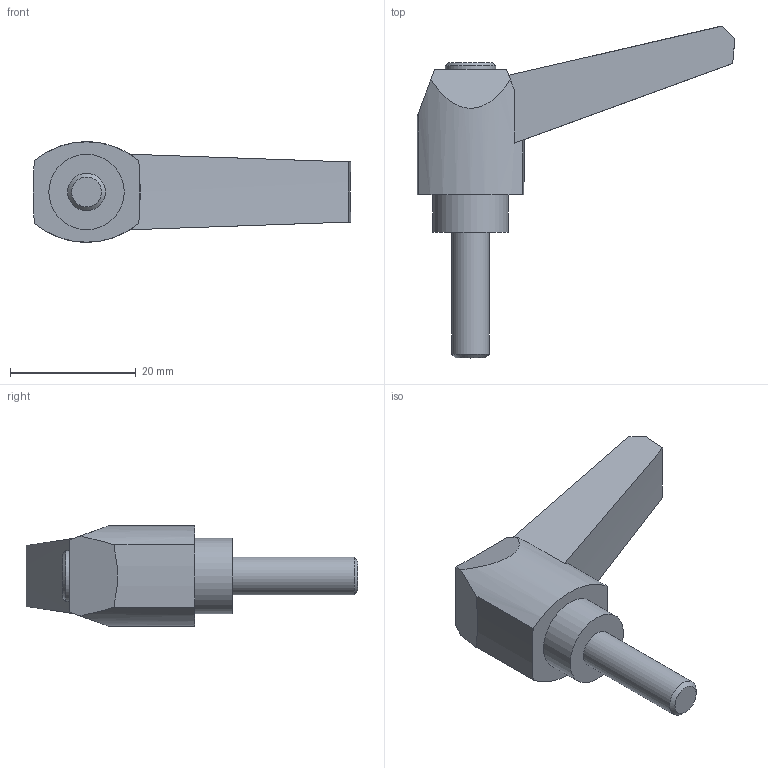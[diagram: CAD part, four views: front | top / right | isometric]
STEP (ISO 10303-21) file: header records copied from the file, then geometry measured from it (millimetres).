
FILE_DESCRIPTION( ( 'STEP AP203' ), '1' );
FILE_NAME( 'C:/Temp/Ganter_Step_05_03_2020/data/2_1/gn_500/gn_500_ms/Adjustable hand lever GN 500-42-M6-20-SW.stp', '2020-03-05T11:26:31', ( 'License CC BY-ND 4.0' ), ( 'CADENAS' ), ' ', 'PARTsolutions', ' ' );
FILE_SCHEMA( ( 'CONFIG_CONTROL_DESIGN' ) );
Length unit declared in the file: millimetre
Products named in the file (1): _Adjustable hand lever GN 500-42-M6-20-SW
Bounding box: 50.59 x 52.85 x 16 mm (x, y, z)
Volume: 8880 mm3; surface area: 3389.6 mm2
Topology: 1 solids, 1 shells, 24 faces, 56 edges, 37 vertices
Faces by surface type: plane 11, cylinder 7, cone 6
Full cylindrical faces by diameter (mm): 6 x1, 8 x1, 12 x1
Entity records: 708 total; most frequent: CARTESIAN_POINT 123, DIRECTION 118, ORIENTED_EDGE 100, EDGE_CURVE 50, AXIS2_PLACEMENT_3D 47, VERTEX_POINT 36, EDGE_LOOP 32, FACE_OUTER_BOUND 27
